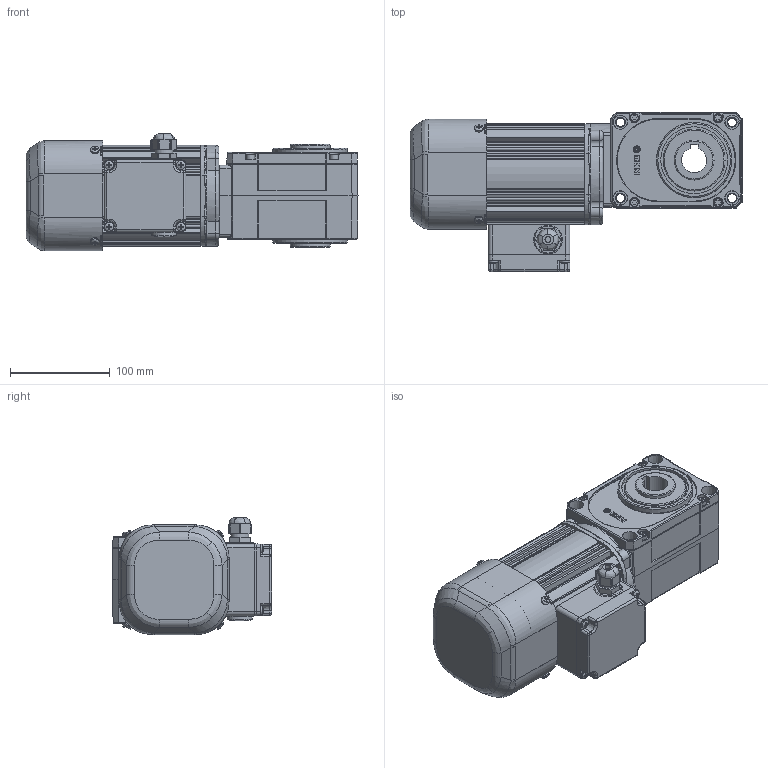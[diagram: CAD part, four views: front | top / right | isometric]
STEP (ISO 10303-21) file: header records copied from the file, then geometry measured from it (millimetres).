
FILE_DESCRIPTION (( 'STEP AP214' ), '1' );
FILE_NAME ('DSY25B-(40~60)B020-¤±.STEP', '2025-01-17T05:33:08', ( '' ), ( '' ), 'SwSTEP 2.0', 'SolidWorks 2024', '' );
FILE_SCHEMA (( 'AUTOMOTIVE_DESIGN' ));
Length unit declared in the file: millimetre
Products named in the file (14): DKM 단자대 상부수정도(20200120); 95 인발프레임 최종가공도(20200128); DSY02L 감속기; 프렉시블_표준; 단자박스 ASS''Y; 단자박스 하 수정; 고무패킹-하; CASE-DSY02L-DC; 0.2KW 브레이크 모터; DKM 0.2kW 뒤커버 가공도(20200128); 단자박스 마개; COVER-DSY02L-DC; DSY25B-(40~60)B020-ㅁ; 0.2kW 브레이크 팬커버
Assembly tree (13 placements, depth 3):
  DSY25B-(40~60)B020-ㅁ
    단자박스 ASS''Y
      단자박스 하 수정
      프렉시블_표준
      단자박스 마개
      DKM 단자대 상부수정도(20200120)
      고무패킹-하
    DSY02L 감속기
      CASE-DSY02L-DC
      COVER-DSY02L-DC
    0.2KW 브레이크 모터
      95 인발프레임 최종가공도(20200128)
      DKM 0.2kW 뒤커버 가공도(20200128)
      0.2kW 브레이크 팬커버
Bounding box: 333 x 159.75 x 117.56 mm (x, y, z)
Volume: 2718412.2 mm3; surface area: 358033.4 mm2
Topology: 10 solids, 11 shells, 1475 faces, 3756 edges, 2351 vertices
Faces by surface type: plane 663, cylinder 484, bspline 222, torus 75, cone 27, sphere 4
Full cylindrical faces by diameter (mm): 2.514 x2, 3.318 x2, 3.5 x4, 4.5 x4, 5 x8, 5.3 x4, 5.5 x4, 6 x1, 8.5 x12, 9 x4, 10 x8, 10.8 x1, 14 x4, 16.5 x1, 18 x2, 19 x1, 20 x3, 22 x1, 25 x1, 28 x1, 40 x3, 62 x2, 67 x2
Entity records: 52538 total; most frequent: CARTESIAN_POINT 18588, ORIENTED_EDGE 7124, DIRECTION 6594, EDGE_CURVE 3562, AXIS2_PLACEMENT_3D 2334, VERTEX_POINT 2316, LINE 1926, VECTOR 1926
